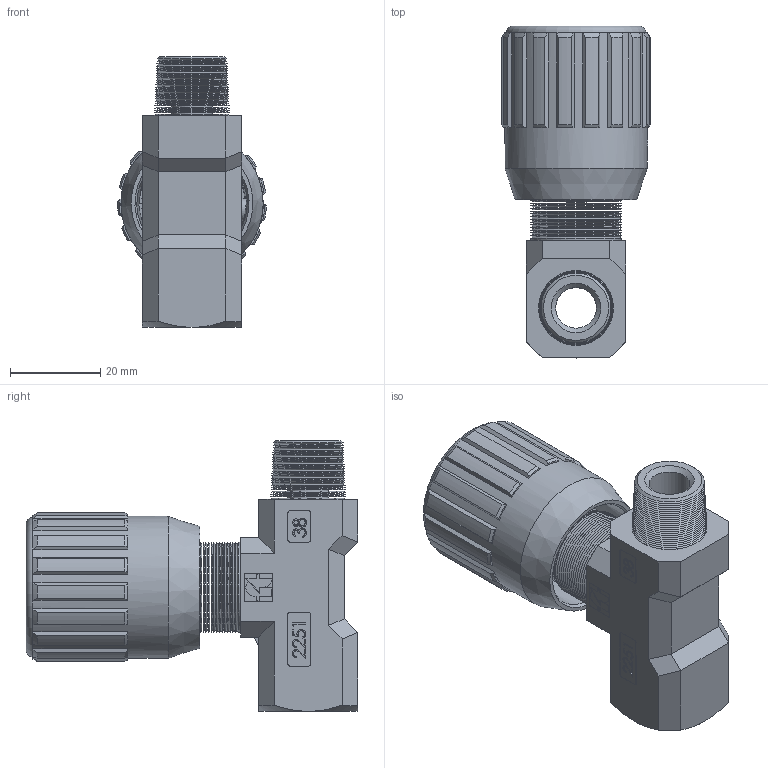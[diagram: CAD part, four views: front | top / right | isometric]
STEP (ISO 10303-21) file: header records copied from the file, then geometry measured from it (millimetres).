
FILE_DESCRIPTION (( 'STEP AP214' ), '1' );
FILE_NAME ('FT2251-2-38 - MF.STEP', '2015-04-16T13:04:40', ( 'cperuzzotti' ), ( 'Hewlett-Packard Company' ), 'SwSTEP 2.0', 'SolidWorks 2014', '' );
FILE_SCHEMA (( 'AUTOMOTIVE_DESIGN' ));
Length unit declared in the file: millimetre
Products named in the file (1): FT2251-2-38 - MF
Bounding box: 32.98 x 73.5 x 60 mm (x, y, z)
Surface area: 16036.9 mm2 (no closed solid volume)
Topology: 0 solids, 28 shells, 556 faces, 1785 edges, 1194 vertices
Faces by surface type: plane 305, cone 139, cylinder 60, bspline 51, torus 1
Full cylindrical faces by diameter (mm): 2.5 x1, 5 x2, 9 x1, 17.8 x1, 18.3 x1, 20 x1, 31.5 x1
Entity records: 28426 total; most frequent: CARTESIAN_POINT 7621, ORIENTED_EDGE 2821, DIRECTION 2795, EDGE_CURVE 1666, VERTEX_POINT 1185, LINE 1097, VECTOR 1097, AXIS2_PLACEMENT_3D 849
